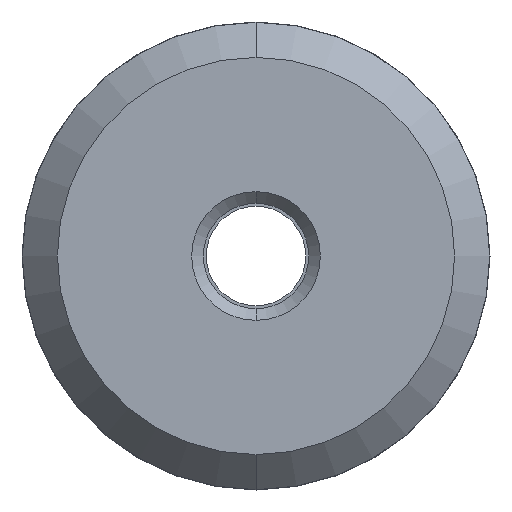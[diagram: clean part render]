
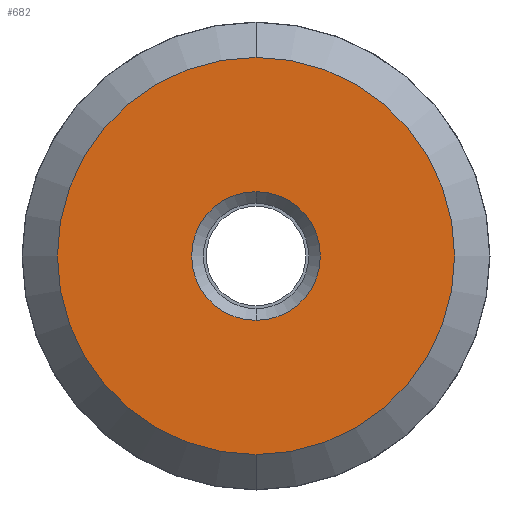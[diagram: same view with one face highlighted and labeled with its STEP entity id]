
A CAD part, front view. The second image highlights one B-rep face of the part: STEP entity #682.
In plain terms, the highlighted planar face has unit normal (0, -1, 0).
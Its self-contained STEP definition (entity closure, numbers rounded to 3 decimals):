
#578=CARTESIAN_POINT('Axis2P3D Location',(0.,0.,0.)) ;
#582=CARTESIAN_POINT('Vertex',(0.,0.,-16.975)) ;
#584=CARTESIAN_POINT('Vertex',(0.,0.,16.975)) ;
#609=CARTESIAN_POINT('Axis2P3D Location',(0.,0.,0.)) ;
#630=CARTESIAN_POINT('Vertex',(0.,0.,5.5)) ;
#637=CARTESIAN_POINT('Vertex',(0.,0.,-5.5)) ;
#640=CARTESIAN_POINT('Axis2P3D Location',(0.,0.,0.)) ;
#657=CARTESIAN_POINT('Axis2P3D Location',(0.,0.,0.)) ;
#669=CARTESIAN_POINT('Axis2P3D Location',(-12.125,0.,0.)) ;
#579=DIRECTION('Axis2P3D Direction',(0.,1.,0.)) ;
#610=DIRECTION('Axis2P3D Direction',(0.,1.,0.)) ;
#641=DIRECTION('Axis2P3D Direction',(0.,-1.,-0.)) ;
#658=DIRECTION('Axis2P3D Direction',(0.,-1.,-0.)) ;
#670=DIRECTION('Axis2P3D Direction',(0.,-1.,0.)) ;
#671=DIRECTION('Axis2P3D XDirection',(0.,0.,-1.)) ;
#580=AXIS2_PLACEMENT_3D('Circle Axis2P3D',#578,#579,$) ;
#611=AXIS2_PLACEMENT_3D('Circle Axis2P3D',#609,#610,$) ;
#642=AXIS2_PLACEMENT_3D('Circle Axis2P3D',#640,#641,$) ;
#659=AXIS2_PLACEMENT_3D('Circle Axis2P3D',#657,#658,$) ;
#672=AXIS2_PLACEMENT_3D('Plane Axis2P3D',#669,#670,#671) ;
#675=ORIENTED_EDGE('',*,*,#613,.T.) ;
#676=ORIENTED_EDGE('',*,*,#586,.T.) ;
#679=ORIENTED_EDGE('',*,*,#644,.F.) ;
#680=ORIENTED_EDGE('',*,*,#661,.F.) ;
#681=FACE_BOUND('',#678,.T.) ;
#682=ADVANCED_FACE('Rivoluzione1',(#677,#681),#673,.T.) ;
#581=CIRCLE('generated circle',#580,16.975) ;
#612=CIRCLE('generated circle',#611,16.975) ;
#643=CIRCLE('generated circle',#642,5.5) ;
#660=CIRCLE('generated circle',#659,5.5) ;
#586=EDGE_CURVE('',#583,#585,#581,.F.) ;
#613=EDGE_CURVE('',#585,#583,#612,.F.) ;
#644=EDGE_CURVE('',#638,#631,#643,.T.) ;
#661=EDGE_CURVE('',#631,#638,#660,.T.) ;
#674=EDGE_LOOP('',(#675,#676)) ;
#678=EDGE_LOOP('',(#679,#680)) ;
#677=FACE_OUTER_BOUND('',#674,.T.) ;
#673=PLANE('Plane',#672) ;
#583=VERTEX_POINT('',#582) ;
#585=VERTEX_POINT('',#584) ;
#631=VERTEX_POINT('',#630) ;
#638=VERTEX_POINT('',#637) ;
